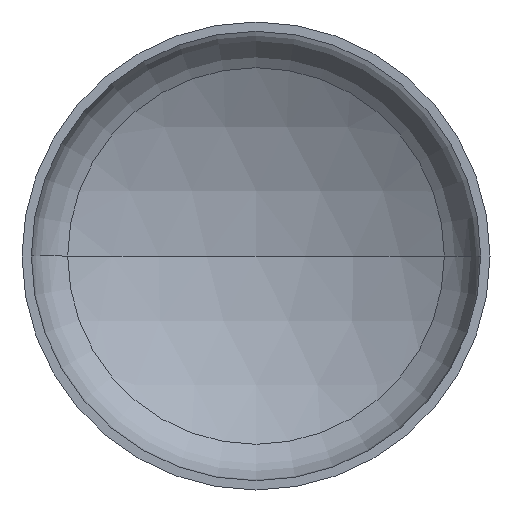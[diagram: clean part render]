
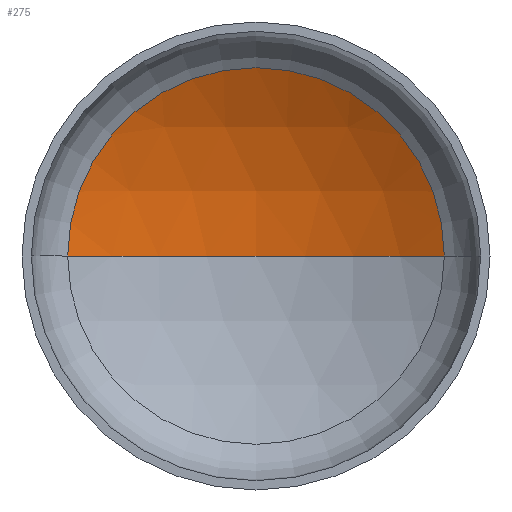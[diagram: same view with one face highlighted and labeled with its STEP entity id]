
A CAD part, front view. The second image highlights one B-rep face of the part: STEP entity #275.
In plain terms, the highlighted spherical face has radius 640 mm.
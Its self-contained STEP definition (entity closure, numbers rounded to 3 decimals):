
#6 = AXIS2_PLACEMENT_3D ( 'NONE', #91, #114, #125 ) ;
#8 = AXIS2_PLACEMENT_3D ( 'NONE', #381, #256, #260 ) ;
#20 = EDGE_LOOP ( 'NONE', ( #89, #396, #184 ) ) ;
#22 = AXIS2_PLACEMENT_3D ( 'NONE', #182, #178, #39 ) ;
#35 = AXIS2_PLACEMENT_3D ( 'NONE', #252, #195, #334 ) ;
#39 = DIRECTION ( 'NONE',  ( -1., 0., 0. ) ) ;
#78 = CIRCLE ( 'NONE', #35, 321.864 ) ;
#89 = ORIENTED_EDGE ( 'NONE', *, *, #367, .F. ) ;
#91 = CARTESIAN_POINT ( 'NONE',  ( 0., -390.134, 0. ) ) ;
#105 = VERTEX_POINT ( 'NONE', #305 ) ;
#114 = DIRECTION ( 'NONE',  ( 0., 0., -1. ) ) ;
#124 = EDGE_CURVE ( 'NONE', #105, #152, #78, .T. ) ;
#125 = DIRECTION ( 'NONE',  ( -1., 0., 0. ) ) ;
#152 = VERTEX_POINT ( 'NONE', #227 ) ;
#155 = VERTEX_POINT ( 'NONE', #376 ) ;
#178 = DIRECTION ( 'NONE',  ( 0., 0., -1. ) ) ;
#182 = CARTESIAN_POINT ( 'NONE',  ( 0., -390.134, 0. ) ) ;
#184 = ORIENTED_EDGE ( 'NONE', *, *, #124, .T. ) ;
#195 = DIRECTION ( 'NONE',  ( 0., -1., 0. ) ) ;
#227 = CARTESIAN_POINT ( 'NONE',  ( -321.864, 163.042, 0. ) ) ;
#252 = CARTESIAN_POINT ( 'NONE',  ( 0., 163.042, 0. ) ) ;
#256 = DIRECTION ( 'NONE',  ( 0., 0., 1. ) ) ;
#260 = DIRECTION ( 'NONE',  ( 1., 0., 0. ) ) ;
#275 = ADVANCED_FACE ( 'NONE', ( #411 ), #360, .F. ) ;
#305 = CARTESIAN_POINT ( 'NONE',  ( 321.864, 163.042, 0. ) ) ;
#334 = DIRECTION ( 'NONE',  ( 1., 0., 0. ) ) ;
#336 = CIRCLE ( 'NONE', #8, 640. ) ;
#360 = SPHERICAL_SURFACE ( 'NONE', #22, 640. ) ;
#365 = EDGE_CURVE ( 'NONE', #155, #105, #389, .T. ) ;
#367 = EDGE_CURVE ( 'NONE', #155, #152, #336, .T. ) ;
#376 = CARTESIAN_POINT ( 'NONE',  ( 0., 249.866, 0. ) ) ;
#381 = CARTESIAN_POINT ( 'NONE',  ( 0., -390.134, 0. ) ) ;
#389 = CIRCLE ( 'NONE', #6, 640. ) ;
#396 = ORIENTED_EDGE ( 'NONE', *, *, #365, .T. ) ;
#411 = FACE_OUTER_BOUND ( 'NONE', #20, .T. ) ;
